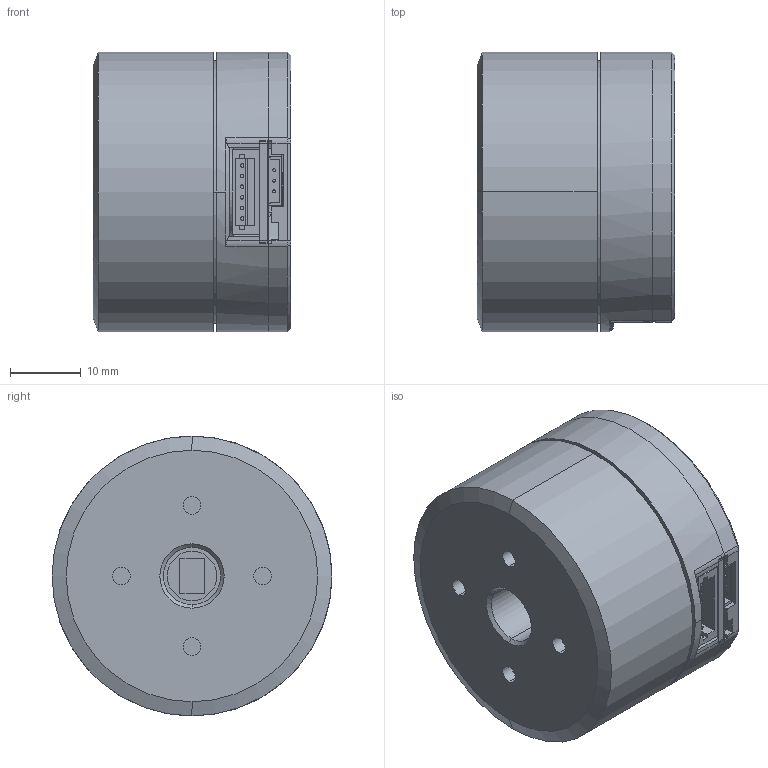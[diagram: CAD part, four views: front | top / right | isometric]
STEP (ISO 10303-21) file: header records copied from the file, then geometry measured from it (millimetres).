
FILE_DESCRIPTION (( 'STEP AP214' ), '1' );
FILE_NAME ('MF4010v2.STEP', '2022-07-26T14:48:14', ( '' ), ( '' ), 'SwSTEP 2.0', 'SolidWorks 2018', '' );
FILE_SCHEMA (( 'AUTOMOTIVE_DESIGN' ));
Length unit declared in the file: millimetre
Products named in the file (2): MF4010v2
Bounding box: 28 x 39.6 x 39.6 mm (x, y, z)
Volume: 26990 mm3; surface area: 19125.3 mm2
Topology: 37 solids, 37 shells, 1045 faces, 2666 edges, 1744 vertices
Faces by surface type: plane 542, cylinder 354, bspline 110, cone 39
Entity records: 46567 total; most frequent: CARTESIAN_POINT 9517, ORIENTED_EDGE 5300, DIRECTION 5033, EDGE_CURVE 2650, VERTEX_POINT 1744, AXIS2_PLACEMENT_3D 1720, VECTOR 1593, LINE 1593
